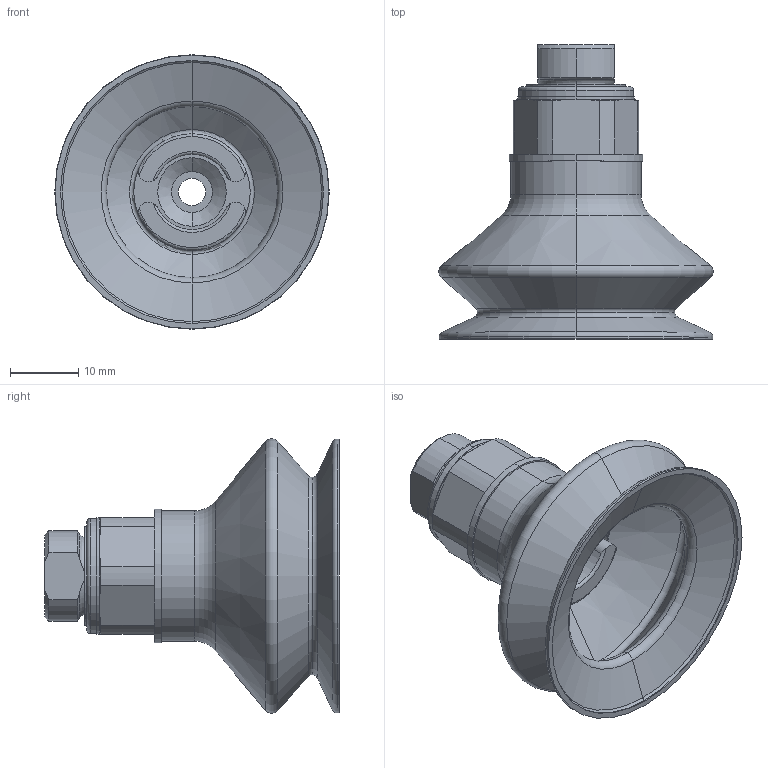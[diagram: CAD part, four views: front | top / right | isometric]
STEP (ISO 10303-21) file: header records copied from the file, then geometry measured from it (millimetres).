
FILE_DESCRIPTION (( 'STEP AP203' ), '1' );
FILE_NAME ('ZASB-40-1_4-PU.STEP', '2022-03-14T17:55:42', ( '' ), ( '' ), 'SwSTEP 2.0', 'SolidWorks 2019', '' );
FILE_SCHEMA (( 'CONFIG_CONTROL_DESIGN' ));
Length unit declared in the file: millimetre
Products named in the file (1): ZASB-40-1_4-PU
Bounding box: 40.08 x 43 x 40.08 mm (x, y, z)
Volume: 10177.2 mm3; surface area: 8199.2 mm2
Topology: 1 solids, 1 shells, 125 faces, 286 edges, 171 vertices
Faces by surface type: cylinder 43, torus 32, cone 28, plane 22
Entity records: 3710 total; most frequent: CARTESIAN_POINT 735, DIRECTION 679, ORIENTED_EDGE 572, AXIS2_PLACEMENT_3D 299, EDGE_CURVE 286, CIRCLE 173, VERTEX_POINT 171, EDGE_LOOP 135
